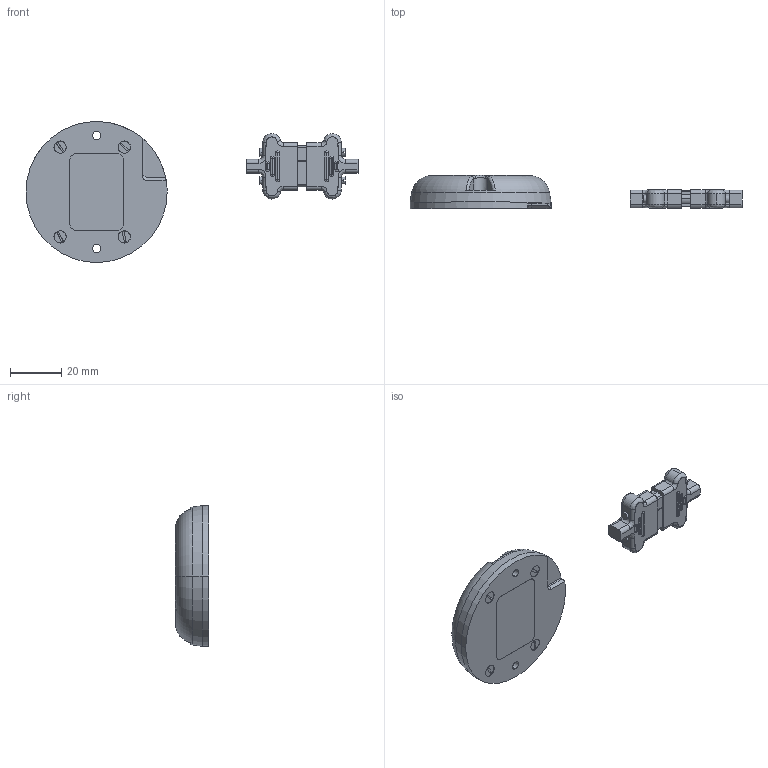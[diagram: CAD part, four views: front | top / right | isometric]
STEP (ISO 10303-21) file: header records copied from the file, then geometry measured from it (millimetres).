
FILE_DESCRIPTION (( 'STEP AP214' ), '1' );
FILE_NAME ('UV01.431329.102.365 WWW GPS receiver mini.STEP', '2017-03-06T08:54:37', ( '' ), ( '' ), 'SwSTEP 2.0', 'SolidWorks 2017', '' );
FILE_SCHEMA (( 'AUTOMOTIVE_DESIGN' ));
Length unit declared in the file: millimetre
Products named in the file (1): UV01.431329.102.365 WWW GPS receiver mini
Bounding box: 129.4 x 12.9 x 55 mm (x, y, z)
Volume: 31550.3 mm3; surface area: 8968.7 mm2
Topology: 2 solids, 6 shells, 369 faces, 926 edges, 596 vertices
Faces by surface type: cylinder 148, plane 124, bspline 58, torus 28, cone 11
Entity records: 15722 total; most frequent: CARTESIAN_POINT 3962, ORIENTED_EDGE 1852, DIRECTION 1793, EDGE_CURVE 926, AXIS2_PLACEMENT_3D 711, VERTEX_POINT 596, EDGE_LOOP 400, CIRCLE 399
